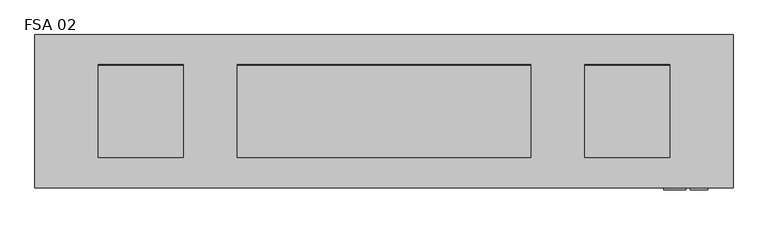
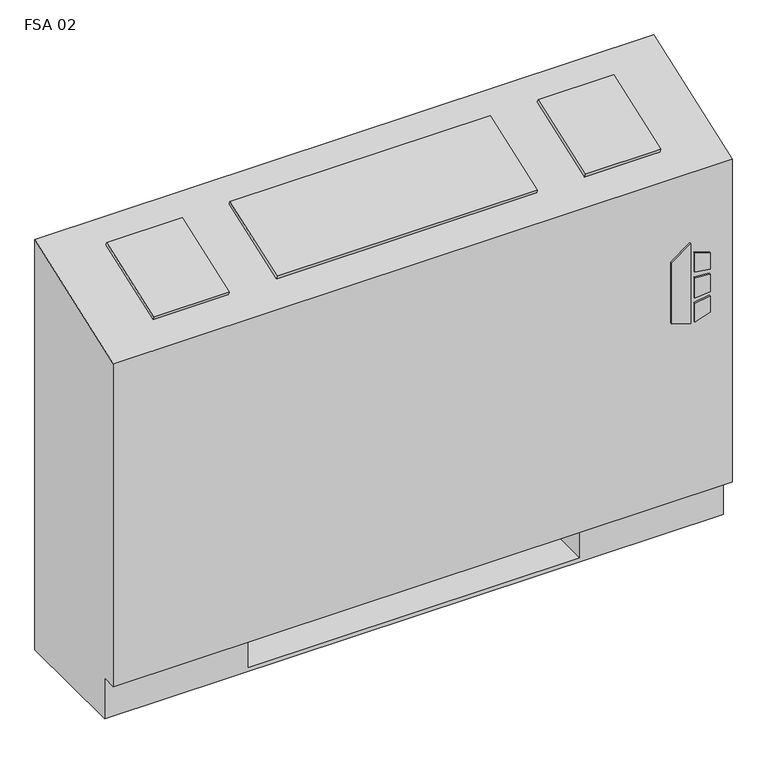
"""IFC4 building model written with IfcOpenShell, lengths in millimetres: proxy geometry, Vertical_Fan_Coil_Unit_-_FSA_-_IEC_-_4-Pipe_TS-FR_LH_2022 : FSA 02."""

from ifc_helpers import new_model, si_unit, point, frame, frame_2d, origin, place, context, project, spatial, polyline, circle_curve, trimmed, segment, composite_curve, outline, extrude, source, transform, mapped, element, save
from ifc_brep_helpers import plane_surface, revolved_surface, advanced_brep


def fsa_02_3f852c0d(model_context):
    return source(origin(), model_context, "Body", "SolidModel", [
        extrude(outline(polyline([(391.6086829, 569.9868862), (381.6606126, 602.1602728), (523.831537, 602.1602728), (500.8095309, 569.9868862), (391.6086829, 569.9868862)])), frame((0.0, 12.7, 0.0), z_axis=(0.0, 1.0, 0.0), x_axis=(0.0, 0.0, 1.0)), (0.0, 0.0, 1.0), 3.175),
        extrude(outline(polyline([(470.6079683, 608.9186058), (467.4055757, 635.0), (496.6344168, 635.0), (504.6988318, 608.9186058), (470.6079683, 608.9186058)])), frame((0.0, 12.7, 0.0), z_axis=(0.0, 1.0, 0.0), x_axis=(0.0, 0.0, 1.0)), (0.0, 0.0, 1.0), 3.175),
        extrude(outline(polyline([(418.7444414, 635.0), (415.0789404, 608.9186058), (381.6606126, 608.9186058), (390.2948498, 635.0), (418.7444414, 635.0)])), frame((0.0, 12.7, 0.0), z_axis=(0.0, 1.0, 0.0), x_axis=(0.0, 0.0, 1.0)), (0.0, 0.0, 1.0), 3.175),
        extrude(outline(polyline([(458.0596028, 635.0), (460.3414292, 608.9186058), (424.4038806, 608.9186058), (427.1451456, 635.0), (458.0596028, 635.0)])), frame((0.0, 12.7, 0.0), z_axis=(0.0, 1.0, 0.0), x_axis=(0.0, 0.0, 1.0)), (0.0, 0.0, 1.0), 3.175),
        extrude(outline(polyline([(552.45, 223.266), (552.45, 81.534), (431.8, 81.534), (431.8, 223.266), (552.45, 223.266)])), frame((0.0, 0.0, 327.025), z_axis=(0.0, 0.0, 1.0), x_axis=(1.0, 0.0, 0.0)), (0.0, 0.0, 1.0), 260.35),
        extrude(outline(composite_curve([segment(trimmed(circle_curve(frame_2d((-190.5, 130.175)), 9.525), [point((-200.025, 130.175))], [point((-180.975, 130.175))], False, "CARTESIAN"), True, "CONTINUOUS"), segment(trimmed(circle_curve(frame_2d((-190.5, 130.175)), 9.525), [point((-180.975, 130.175))], [point((-200.025, 130.175))], False, "CARTESIAN"), True, "CONTINUOUS")], self_intersect=False)), frame((0.0, 0.0, 101.6), z_axis=(0.0, 0.0, 1.0), x_axis=(1.0, 0.0, 0.0)), (0.0, 0.0, 1.0), 25.4),
        extrude(outline(polyline([(-292.1, 63.5), (-292.1, 196.85), (-127.0, 196.85), (-127.0, 63.5), (-292.1, 63.5)])), frame((0.0, 0.0, 127.0), z_axis=(0.0, 0.0, 1.0), x_axis=(1.0, 0.0, 0.0)), (0.0, 0.0, 1.0), 50.8),
        extrude(outline(polyline([(0.0, -146.0500001), (0.0, 0.0), (127.0, 0.0), (127.0, -146.0500001), (0.0, -146.0500001)])), frame((-274.193, 200.4217127, 714.3418685), z_axis=(0.0, -0.3396444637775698, 0.9405538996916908), x_axis=(1.0, 0.0, 0.0)), (0.0, 0.0, 1.0), 6.35),
        extrude(outline(polyline([(0.0, -146.0500001), (0.0, 0.0), (438.15, 0.0), (438.15, -146.0500001), (0.0, -146.0500001)])), frame((371.475, 63.0538156, 664.7367945), z_axis=(0.0, -0.33964446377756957, 0.9405538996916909), x_axis=(-1.0, 0.0, 0.0)), (0.0, 0.0, 1.0), 6.35),
        extrude(outline(polyline([(0.0, -146.0500001), (0.0, 0.0), (127.0, 0.0), (127.0, -146.0500001), (0.0, -146.0500001)])), frame((578.993, 63.0538156, 664.7367945), z_axis=(0.0, -0.3396444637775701, 0.9405538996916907), x_axis=(-1.0, 0.0, 0.0)), (0.0, 0.0, 1.0), 6.35),
        extrude(outline(composite_curve([segment(trimmed(circle_curve(frame_2d((117.475, 472.44)), 7.9375), [point((117.475, 480.3775))], [point((117.475, 464.5025))], False, "CARTESIAN"), True, "CONTINUOUS"), segment(trimmed(circle_curve(frame_2d((117.475, 472.44)), 7.9375), [point((117.475, 464.5025))], [point((117.475, 480.3775))], False, "CARTESIAN"), True, "CONTINUOUS")], self_intersect=False)), frame((-177.8, 0.0, 0.0), z_axis=(1.0, 0.0, 0.0), x_axis=(0.0, 1.0, 0.0)), (0.0, 0.0, 1.0), 50.8),
        extrude(outline(composite_curve([segment(trimmed(circle_curve(frame_2d((164.0586, 445.897)), 7.9375), [point((164.0586, 453.8345))], [point((164.0586, 437.9595))], False, "CARTESIAN"), True, "CONTINUOUS"), segment(trimmed(circle_curve(frame_2d((164.0586, 445.897)), 7.9375), [point((164.0586, 437.9595))], [point((164.0586, 453.8345))], False, "CARTESIAN"), True, "CONTINUOUS")], self_intersect=False)), frame((-177.8, 0.0, 0.0), z_axis=(1.0, 0.0, 0.0), x_axis=(0.0, 1.0, 0.0)), (0.0, 0.0, 1.0), 50.8),
        extrude(outline(composite_curve([segment(trimmed(circle_curve(frame_2d((130.175, 554.99)), 7.9502), [point((130.175, 562.9402))], [point((130.175, 547.0398))], False, "CARTESIAN"), True, "CONTINUOUS"), segment(trimmed(circle_curve(frame_2d((130.175, 554.99)), 7.9502), [point((130.175, 547.0398))], [point((130.175, 562.9402))], False, "CARTESIAN"), True, "CONTINUOUS")], self_intersect=False)), frame((-177.8, 0.0, 0.0), z_axis=(1.0, 0.0, 0.0), x_axis=(0.0, 1.0, 0.0)), (0.0, 0.0, 1.0), 50.8),
        extrude(outline(composite_curve([segment(trimmed(circle_curve(frame_2d((53.975, 416.56)), 7.9502), [point((53.975, 424.5102))], [point((53.975, 408.6098))], False, "CARTESIAN"), True, "CONTINUOUS"), segment(trimmed(circle_curve(frame_2d((53.975, 416.56)), 7.9502), [point((53.975, 408.6098))], [point((53.975, 424.5102))], False, "CARTESIAN"), True, "CONTINUOUS")], self_intersect=False)), frame((-177.8, 0.0, 0.0), z_axis=(1.0, 0.0, 0.0), x_axis=(0.0, 1.0, 0.0)), (0.0, 0.0, 1.0), 50.8),
        advanced_brep(
        [(-368.3, 244.475, 0.0), (673.1, 244.475, 0.0), (673.1, 41.275, 0.0), (-368.3, 41.275, 0.0), (-368.3, 244.475, 730.25), (673.1, 244.475, 730.25), (431.8, 244.475, 73.025), (660.4, 244.475, 73.025), (660.4, 244.475, 654.05), (431.8, 244.475, 654.05), (431.8, 244.475, 414.8650565), (460.375, 244.475, 414.8650565), (460.375, 244.475, 385.2349435), (431.8, 244.475, 385.2349435), (431.8, 244.475, 287.3375), (460.375, 244.475, 287.3375), (460.375, 244.475, 258.7625), (431.8, 244.475, 258.7625), (431.8, 244.475, 141.2875), (460.375, 244.475, 141.2875), (460.375, 244.475, 112.7125), (431.8, 244.475, 112.7125), (-127.0, 244.475, 654.05), (-355.6, 244.475, 654.05), (-355.6, 244.475, 73.025), (-127.0, 244.475, 73.025), (-127.0, 244.475, 112.7125), (-155.575, 244.475, 112.7125), (-155.575, 244.475, 141.2875), (-127.0, 244.475, 141.2875), (-127.0, 244.475, 258.7625), (-155.575, 244.475, 258.7625), (-155.575, 244.475, 287.3375), (-127.0, 244.475, 287.3375), (-127.0, 244.475, 385.2349435), (-155.575, 244.475, 385.2349435), (-155.575, 244.475, 414.8650565), (-127.0, 244.475, 414.8650565), (450.0626, 244.475, 127.0), (438.9374, 244.475, 127.0), (450.0626, 244.475, 400.05), (438.9374, 244.475, 400.05), (450.0626, 244.475, 273.05), (438.9374, 244.475, 273.05), (-134.1374, 244.475, 127.0), (-145.2626, 244.475, 127.0), (-134.1374, 244.475, 273.05), (-145.2626, 244.475, 273.05), (-134.1374, 244.475, 400.05), (-145.2626, 244.475, 400.05), (-368.3, 41.275, 73.025), (-368.3, 15.875, 73.025), (-368.3, 15.875, 647.7), (673.1, 15.875, 73.025), (673.1, 15.875, 647.7), (673.1, 41.275, 73.025), (-127.0, 41.275, 73.025), (-127.0, 225.425, 73.025), (431.8, 225.425, 73.025), (431.8, 41.275, 73.025), (431.8, 41.275, 6.35), (-127.0, 41.275, 6.35), (431.8, 41.275, 654.05), (660.4, 41.275, 654.05), (660.4, 41.275, 73.025), (431.8, 41.275, 73.025), (-127.0, 41.275, 654.05), (-127.0, 41.275, 73.025), (-355.6, 41.275, 73.025), (-355.6, 41.275, 654.05), (431.8, 225.425, 73.025), (431.8, 238.125, 112.7125), (431.8, 238.125, 141.2875), (431.8, 238.125, 258.7625), (431.8, 238.125, 287.3375), (431.8, 238.125, 385.2349435), (431.8, 238.125, 414.8650565), (-127.0, 225.425, 73.025), (-127.0, 238.125, 414.8650565), (-127.0, 238.125, 385.2349435), (-127.0, 238.125, 287.3375), (-127.0, 238.125, 258.7625), (-127.0, 238.125, 141.2875), (-127.0, 238.125, 112.7125), (-127.0, 225.425, 6.35), (431.8, 225.425, 6.35), (460.375, 238.125, 112.7125), (460.375, 238.125, 141.2875), (438.9374, 238.125, 127.0), (450.0626, 238.125, 127.0), (460.375, 238.125, 258.7625), (460.375, 238.125, 287.3375), (438.9374, 238.125, 273.05), (450.0626, 238.125, 273.05), (460.375, 238.125, 385.2349435), (460.375, 238.125, 414.8650565), (438.9374, 238.125, 400.05), (450.0626, 238.125, 400.05), (-155.575, 238.125, 141.2875), (-155.575, 238.125, 112.7125), (-145.2626, 238.125, 127.0), (-134.1374, 238.125, 127.0), (-155.575, 238.125, 287.3375), (-155.575, 238.125, 258.7625), (-145.2626, 238.125, 273.05), (-134.1374, 238.125, 273.05), (-155.575, 238.125, 414.8650565), (-155.575, 238.125, 385.2349435), (-145.2626, 238.125, 400.05), (-134.1374, 238.125, 400.05)],
        [
            (0, 1),
            (1, 2),
            (2, 3),
            (3, 0),
            (0, 4),
            (4, 5),
            (5, 1),
            (6, 7),
            (7, 8),
            (8, 9),
            (9, 10),
            (10, 11),
            (11, 12),
            (12, 13),
            (13, 14),
            (14, 15),
            (15, 16),
            (16, 17),
            (17, 18),
            (18, 19),
            (19, 20),
            (20, 21),
            (21, 6),
            (22, 23),
            (23, 24),
            (24, 25),
            (25, 26),
            (26, 27),
            (27, 28),
            (28, 29),
            (29, 30),
            (30, 31),
            (31, 32),
            (32, 33),
            (33, 34),
            (34, 35),
            (35, 36),
            (36, 37),
            (37, 22),
            (38, 39, circle_curve(frame((444.5, 244.475, 127.0), z_axis=(0.0, -1.0, 0.0), x_axis=(-1.0, 0.0, 0.0)), 5.5626)),
            (39, 38, circle_curve(frame((444.5, 244.475, 127.0), z_axis=(0.0, -1.0, 0.0), x_axis=(-1.0, 0.0, 0.0)), 5.5626)),
            (40, 41, circle_curve(frame((444.5, 244.475, 400.05), z_axis=(0.0, -1.0, 0.0), x_axis=(-1.0, 0.0, 0.0)), 5.5626)),
            (41, 40, circle_curve(frame((444.5, 244.475, 400.05), z_axis=(0.0, -1.0, 0.0), x_axis=(-1.0, 0.0, 0.0)), 5.5626)),
            (42, 43, circle_curve(frame((444.5, 244.475, 273.05), z_axis=(0.0, -1.0, 0.0), x_axis=(-1.0, 0.0, 0.0)), 5.5626)),
            (43, 42, circle_curve(frame((444.5, 244.475, 273.05), z_axis=(0.0, -1.0, 0.0), x_axis=(-1.0, 0.0, 0.0)), 5.5626)),
            (44, 45, circle_curve(frame((-139.7, 244.475, 127.0), z_axis=(0.0, -1.0, 0.0), x_axis=(-1.0, 0.0, 0.0)), 5.5626)),
            (45, 44, circle_curve(frame((-139.7, 244.475, 127.0), z_axis=(0.0, -1.0, 0.0), x_axis=(-1.0, 0.0, 0.0)), 5.5626)),
            (46, 47, circle_curve(frame((-139.7, 244.475, 273.05), z_axis=(0.0, -1.0, 0.0), x_axis=(-1.0, 0.0, 0.0)), 5.5626)),
            (47, 46, circle_curve(frame((-139.7, 244.475, 273.05), z_axis=(0.0, -1.0, 0.0), x_axis=(-1.0, 0.0, 0.0)), 5.5626)),
            (48, 49, circle_curve(frame((-139.7, 244.475, 400.05), z_axis=(0.0, -1.0, 0.0), x_axis=(-1.0, 0.0, 0.0)), 5.5626)),
            (49, 48, circle_curve(frame((-139.7, 244.475, 400.05), z_axis=(0.0, -1.0, 0.0), x_axis=(-1.0, 0.0, 0.0)), 5.5626)),
            (3, 50),
            (50, 51),
            (51, 52),
            (52, 4),
            (51, 53),
            (53, 54),
            (54, 52),
            (5, 54),
            (53, 55),
            (55, 2),
            (50, 56),
            (56, 57),
            (57, 58),
            (58, 59),
            (59, 55),
            (59, 60),
            (60, 61),
            (61, 56),
            (62, 63),
            (63, 64),
            (64, 65),
            (65, 62),
            (66, 67),
            (67, 68),
            (68, 69),
            (69, 66),
            (65, 70),
            (70, 6),
            (21, 71),
            (71, 72),
            (72, 18),
            (17, 73),
            (73, 74),
            (74, 14),
            (13, 75),
            (75, 76),
            (76, 10),
            (9, 62),
            (64, 7),
            (63, 8),
            (69, 23),
            (22, 66),
            (68, 24),
            (67, 77),
            (77, 25),
            (37, 78),
            (78, 79),
            (79, 34),
            (33, 80),
            (80, 81),
            (81, 30),
            (29, 82),
            (82, 83),
            (83, 26),
            (57, 84),
            (84, 85),
            (85, 58),
            (85, 60),
            (84, 61),
            (71, 86),
            (86, 87),
            (87, 72),
            (88, 89, circle_curve(frame((444.5, 238.125, 127.0), z_axis=(0.0, 1.0, 0.0), x_axis=(-1.0, 0.0, 0.0)), 5.5626)),
            (89, 88, circle_curve(frame((444.5, 238.125, 127.0), z_axis=(0.0, 1.0, 0.0), x_axis=(-1.0, 0.0, 0.0)), 5.5626)),
            (73, 90),
            (90, 91),
            (91, 74),
            (92, 93, circle_curve(frame((444.5, 238.125, 273.05), z_axis=(0.0, 1.0, 0.0), x_axis=(-1.0, 0.0, 0.0)), 5.5626)),
            (93, 92, circle_curve(frame((444.5, 238.125, 273.05), z_axis=(0.0, 1.0, 0.0), x_axis=(-1.0, 0.0, 0.0)), 5.5626)),
            (75, 94),
            (94, 95),
            (95, 76),
            (96, 97, circle_curve(frame((444.5, 238.125, 400.05), z_axis=(0.0, 1.0, 0.0), x_axis=(-1.0, 0.0, 0.0)), 5.5626)),
            (97, 96, circle_curve(frame((444.5, 238.125, 400.05), z_axis=(0.0, 1.0, 0.0), x_axis=(-1.0, 0.0, 0.0)), 5.5626)),
            (98, 99),
            (99, 83),
            (82, 98),
            (100, 101, circle_curve(frame((-139.7, 238.125, 127.0), z_axis=(0.0, 1.0, 0.0), x_axis=(-1.0, 0.0, 0.0)), 5.5626)),
            (101, 100, circle_curve(frame((-139.7, 238.125, 127.0), z_axis=(0.0, 1.0, 0.0), x_axis=(-1.0, 0.0, 0.0)), 5.5626)),
            (102, 103),
            (103, 81),
            (80, 102),
            (104, 105, circle_curve(frame((-139.7, 238.125, 273.05), z_axis=(0.0, 1.0, 0.0), x_axis=(-1.0, 0.0, 0.0)), 5.5626)),
            (105, 104, circle_curve(frame((-139.7, 238.125, 273.05), z_axis=(0.0, 1.0, 0.0), x_axis=(-1.0, 0.0, 0.0)), 5.5626)),
            (106, 107),
            (107, 79),
            (78, 106),
            (108, 109, circle_curve(frame((-139.7, 238.125, 400.05), z_axis=(0.0, 1.0, 0.0), x_axis=(-1.0, 0.0, 0.0)), 5.5626)),
            (109, 108, circle_curve(frame((-139.7, 238.125, 400.05), z_axis=(0.0, 1.0, 0.0), x_axis=(-1.0, 0.0, 0.0)), 5.5626)),
            (87, 19),
            (86, 20),
            (91, 15),
            (90, 16),
            (95, 11),
            (94, 12),
            (28, 98),
            (99, 27),
            (32, 102),
            (103, 31),
            (36, 106),
            (107, 35),
            (88, 39),
            (38, 89),
            (96, 41),
            (40, 97),
            (92, 43),
            (42, 93),
            (100, 45),
            (44, 101),
            (104, 47),
            (46, 105),
            (108, 49),
            (48, 109),
        ],
        [
            plane_surface(frame((-368.3, 244.475, 0.0), z_axis=(0.0, 0.0, -1.0), x_axis=(1.0, 0.0, 0.0))),
            plane_surface(frame((673.1, 244.475, 730.25), z_axis=(0.0, 1.0, 0.0), x_axis=(0.0, 0.0, -1.0))),
            plane_surface(frame((-368.3, 244.475, 730.25), z_axis=(-1.0, 0.0, 0.0), x_axis=(0.0, 0.0, -1.0))),
            plane_surface(frame((-368.3, 15.875, 730.25), z_axis=(0.0, -1.0, 0.0), x_axis=(0.0, 0.0, -1.0))),
            plane_surface(frame((673.1, 15.875, 730.25), z_axis=(1.0, 0.0, 0.0), x_axis=(0.0, 0.0, -1.0))),
            plane_surface(frame((-368.3, 15.875, 73.025), z_axis=(0.0, 0.0, -1.0), x_axis=(1.0, 0.0, 0.0))),
            plane_surface(frame((-368.3, 41.275, 73.025), z_axis=(0.0, -1.0, 0.0), x_axis=(1.0, 0.0, 0.0))),
            plane_surface(frame((431.8, 41.275, 654.05), z_axis=(0.0, 1.0, 0.0), x_axis=(0.0, 0.0, -1.0))),
            plane_surface(frame((431.8, 41.275, 654.05), z_axis=(1.0, 0.0, 0.0), x_axis=(0.0, 1.0, 0.0))),
            plane_surface(frame((431.8, 41.275, 73.025), z_axis=(0.0, 0.0, 1.0), x_axis=(0.0, 1.0, 0.0))),
            plane_surface(frame((660.4, 41.275, 73.025), z_axis=(-1.0, 0.0, 0.0), x_axis=(0.0, 1.0, 0.0))),
            plane_surface(frame((660.4, 41.275, 654.05), z_axis=(0.0, 0.0, -1.0), x_axis=(0.0, 1.0, 0.0))),
            plane_surface(frame((-127.0, 41.275, 654.05), z_axis=(0.0, 0.0, -1.0), x_axis=(0.0, 1.0, 0.0))),
            plane_surface(frame((-355.6, 41.275, 654.05), z_axis=(1.0, 0.0, 0.0), x_axis=(0.0, 1.0, 0.0))),
            plane_surface(frame((-355.6, 41.275, 73.025), z_axis=(0.0, 0.0, 1.0), x_axis=(0.0, 1.0, 0.0))),
            plane_surface(frame((-127.0, 41.275, 73.025), z_axis=(-1.0, 0.0, 0.0), x_axis=(0.0, 1.0, 0.0))),
            plane_surface(frame((431.8, 225.425, 73.025), z_axis=(0.0, -1.0, 0.0), x_axis=(0.0, 0.0, -1.0))),
            plane_surface(frame((431.8, 225.425, 73.025), z_axis=(-1.0, 0.0, 0.0), x_axis=(0.0, -1.0, 0.0))),
            plane_surface(frame((431.8, 225.425, 6.35), z_axis=(0.0, 0.0, 1.0), x_axis=(0.0, -1.0, 0.0))),
            plane_surface(frame((-127.0, 225.425, 6.35), z_axis=(1.0, 0.0, 0.0), x_axis=(0.0, -1.0, 0.0))),
            plane_surface(frame((460.375, 238.125, 141.2875), z_axis=(0.0, -1.0, 0.0), x_axis=(-1.0, 0.0, 0.0))),
            plane_surface(frame((431.8, 244.475, 141.2875), z_axis=(0.0, 0.0, 1.0), x_axis=(0.0, -1.0, 0.0))),
            plane_surface(frame((460.375, 244.475, 141.2875), z_axis=(1.0, 0.0, 0.0), x_axis=(0.0, -1.0, 0.0))),
            plane_surface(frame((460.375, 244.475, 112.7125), z_axis=(0.0, 0.0, -1.0), x_axis=(0.0, -1.0, 0.0))),
            plane_surface(frame((431.8, 244.475, 287.3375), z_axis=(0.0, 0.0, 1.0), x_axis=(0.0, -1.0, 0.0))),
            plane_surface(frame((460.375, 244.475, 287.3375), z_axis=(1.0, 0.0, 0.0), x_axis=(0.0, -1.0, 0.0))),
            plane_surface(frame((460.375, 244.475, 258.7625), z_axis=(0.0, 0.0, -1.0), x_axis=(0.0, -1.0, 0.0))),
            plane_surface(frame((431.8, 244.475, 414.8650565), z_axis=(0.0, 0.0, 1.0), x_axis=(0.0, -1.0, 0.0))),
            plane_surface(frame((460.375, 244.475, 414.8650565), z_axis=(1.0, 0.0, 0.0), x_axis=(0.0, -1.0, 0.0))),
            plane_surface(frame((460.375, 244.475, 385.2349435), z_axis=(0.0, 0.0, -1.0), x_axis=(0.0, -1.0, 0.0))),
            plane_surface(frame((-155.575, 244.475, 141.2875), z_axis=(0.0, 0.0, 1.0), x_axis=(0.0, -1.0, 0.0))),
            plane_surface(frame((-127.0, 244.475, 112.7125), z_axis=(0.0, 0.0, -1.0), x_axis=(0.0, -1.0, 0.0))),
            plane_surface(frame((-155.575, 244.475, 112.7125), z_axis=(-1.0, 0.0, 0.0), x_axis=(0.0, -1.0, 0.0))),
            plane_surface(frame((-155.575, 244.475, 287.3375), z_axis=(0.0, 0.0, 1.0), x_axis=(0.0, -1.0, 0.0))),
            plane_surface(frame((-127.0, 244.475, 258.7625), z_axis=(0.0, 0.0, -1.0), x_axis=(0.0, -1.0, 0.0))),
            plane_surface(frame((-155.575, 244.475, 258.7625), z_axis=(-1.0, 0.0, 0.0), x_axis=(0.0, -1.0, 0.0))),
            plane_surface(frame((-155.575, 244.475, 414.8650565), z_axis=(0.0, 0.0, 1.0), x_axis=(0.0, -1.0, 0.0))),
            plane_surface(frame((-127.0, 244.475, 385.2349435), z_axis=(0.0, 0.0, -1.0), x_axis=(0.0, -1.0, 0.0))),
            plane_surface(frame((-155.575, 244.475, 385.2349435), z_axis=(-1.0, 0.0, 0.0), x_axis=(0.0, -1.0, 0.0))),
            revolved_surface(polyline([(438.9374, 238.125, 127.0), (438.9374, 244.475, 127.0)]), (444.5, 244.475, 127.0), (0.0, -1.0, 0.0)),
            revolved_surface(polyline([(438.9374, 238.125, 400.05), (438.9374, 244.475, 400.05)]), (444.5, 244.475, 400.05), (0.0, -1.0, 0.0)),
            revolved_surface(polyline([(438.9374, 238.125, 273.05), (438.9374, 244.475, 273.05)]), (444.5, 244.475, 273.05), (0.0, -1.0, 0.0)),
            revolved_surface(polyline([(-145.2626, 238.125, 127.0), (-145.2626, 244.475, 127.0)]), (-139.7, 244.475, 127.0), (0.0, -1.0, 0.0)),
            revolved_surface(polyline([(-145.2626, 238.125, 273.05), (-145.2626, 244.475, 273.05)]), (-139.7, 244.475, 273.05), (0.0, -1.0, 0.0)),
            revolved_surface(polyline([(-145.2626, 238.125, 400.05), (-145.2626, 244.475, 400.05)]), (-139.7, 244.475, 400.05), (0.0, -1.0, 0.0)),
            plane_surface(frame((-368.3, 244.475, 730.25), z_axis=(0.0, -0.33964446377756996, 0.9405538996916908), x_axis=(1.0, 0.0, 0.0))),
        ],
        [
            (0, [[1, 2, 3, 4]]),
            (1, [[-1, 5, 6, 7], [8, 9, 10, 11, 12, 13, 14, 15, 16, 17, 18, 19, 20, 21, 22, 23], [24, 25, 26, 27, 28, 29, 30, 31, 32, 33, 34, 35, 36, 37, 38, 39], [40, 41], [42, 43], [44, 45], [46, 47], [48, 49], [50, 51]]),
            (2, [[-5, -4, 52, 53, 54, 55]]),
            (3, [[56, 57, 58, -54]]),
            (4, [[-7, 59, -57, 60, 61, -2]]),
            (5, [[-53, 62, 63, 64, 65, 66, -60, -56]]),
            (6, [[-3, -61, -66, 67, 68, 69, -62, -52]]),
            (7, [[70, 71, 72, 73]]),
            (7, [[74, 75, 76, 77]]),
            (8, [[-73, 78, 79, -23, 80, 81, 82, -19, 83, 84, 85, -15, 86, 87, 88, -11, 89]]),
            (9, [[-72, 90, -8, -79, -78]]),
            (10, [[-71, 91, -9, -90]]),
            (11, [[-70, -89, -10, -91]]),
            (12, [[-77, 92, -24, 93]]),
            (13, [[-76, 94, -25, -92]]),
            (14, [[-75, 95, 96, -26, -94]]),
            (15, [[-74, -93, -39, 97, 98, 99, -35, 100, 101, 102, -31, 103, 104, 105, -27, -96, -95]]),
            (16, [[-64, 106, 107, 108]]),
            (17, [[-108, 109, -67, -65]]),
            (18, [[-107, 110, -68, -109]]),
            (19, [[-106, -63, -69, -110]]),
            (20, [[111, 112, 113, -81], [114, 115]]),
            (20, [[116, 117, 118, -84], [119, 120]]),
            (20, [[121, 122, 123, -87], [124, 125]]),
            (20, [[126, 127, -104, 128], [129, 130]]),
            (20, [[131, 132, -101, 133], [134, 135]]),
            (20, [[136, 137, -98, 138], [139, 140]]),
            (21, [[-113, 141, -20, -82]]),
            (22, [[-112, 142, -21, -141]]),
            (23, [[-111, -80, -22, -142]]),
            (24, [[-118, 143, -16, -85]]),
            (25, [[-117, 144, -17, -143]]),
            (26, [[-116, -83, -18, -144]]),
            (27, [[-123, 145, -12, -88]]),
            (28, [[-122, 146, -13, -145]]),
            (29, [[-121, -86, -14, -146]]),
            (30, [[-128, -103, -30, 147]]),
            (31, [[-127, 148, -28, -105]]),
            (32, [[-126, -147, -29, -148]]),
            (33, [[-133, -100, -34, 149]]),
            (34, [[-132, 150, -32, -102]]),
            (35, [[-131, -149, -33, -150]]),
            (36, [[-138, -97, -38, 151]]),
            (37, [[-137, 152, -36, -99]]),
            (38, [[-136, -151, -37, -152]]),
            (39, [[153, -40, 154, -114]]),
            (39, [[-153, -115, -154, -41]]),
            (40, [[155, -42, 156, -124]]),
            (40, [[-155, -125, -156, -43]]),
            (41, [[157, -44, 158, -119]]),
            (41, [[-157, -120, -158, -45]]),
            (42, [[159, -46, 160, -129]]),
            (42, [[-159, -130, -160, -47]]),
            (43, [[161, -48, 162, -134]]),
            (43, [[-161, -135, -162, -49]]),
            (44, [[163, -50, 164, -139]]),
            (44, [[-163, -140, -164, -51]]),
            (45, [[-6, -55, -58, -59]]),
        ],
    ),
    ])


if __name__ == "__main__":
    model = new_model("IFC4")
    model_context = context("Model", 3, world=origin())
    ifc_project = project(units=[si_unit("LENGTHUNIT", "METRE", prefix="MILLI")], contexts=[model_context])
    site = spatial("IfcSite", under=ifc_project)
    building = spatial("IfcBuilding", under=site)
    placement = place(None, origin())
    fsa_02_shape = fsa_02_3f852c0d(model_context)
    element("IfcBuildingElementProxy", 1, Name="Vertical_Fan_Coil_Unit_-_FSA_-_IEC_-_4-Pipe_TS-FR_LH_2022 : FSA 02", ObjectType="Vertical_Fan_Coil_Unit_-_FSA_-_IEC_-_4-Pipe_TS-FR_LH_2022 : FSA 02", at=placement, inside=building, context=model_context, shape_type="MappedRepresentation", body=[
        mapped(fsa_02_shape, transform((0.0, 0.0, 0.0), x_axis=(1.0, 0.0, 0.0), y_axis=(0.0, 1.0, 0.0), z_axis=(0.0, 0.0, 1.0))),
    ])
    save(model, "model.ifc")
